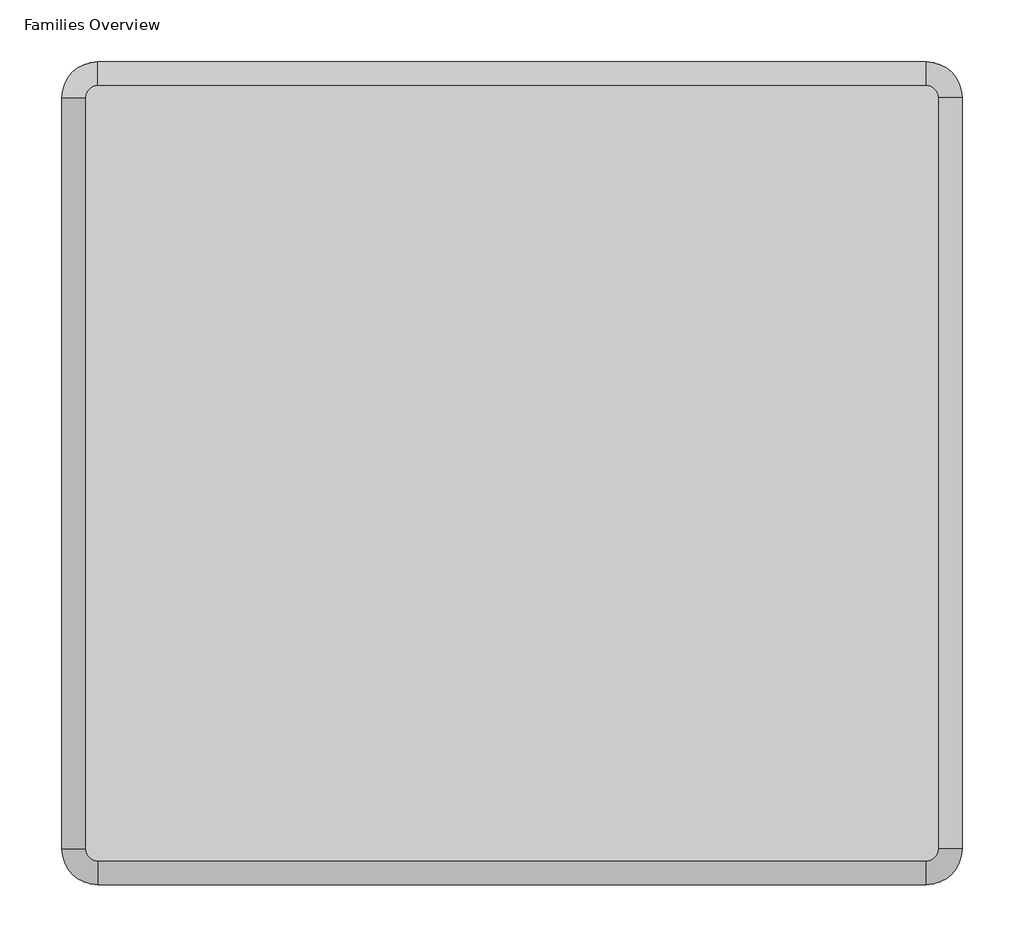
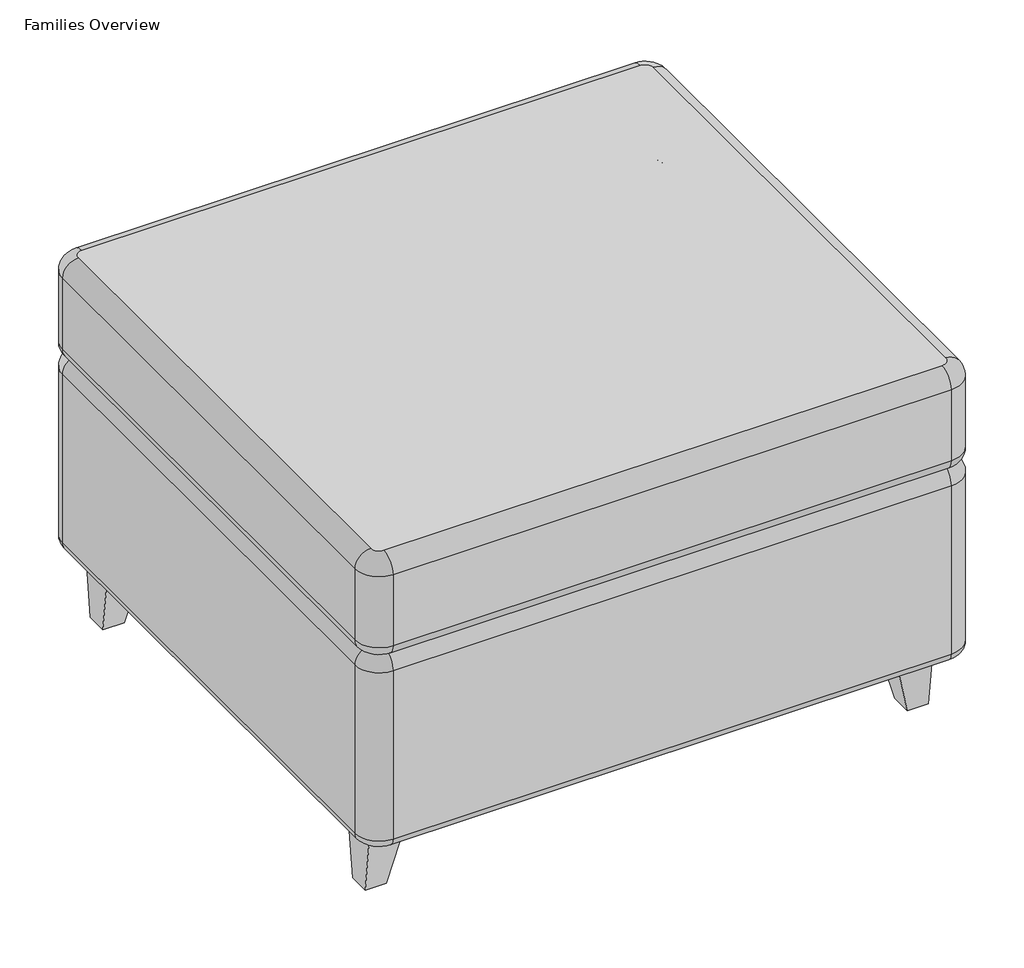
# One storey, incomplete: 1 furniture element.
"""IFC4 building model written with IfcOpenShell, lengths in millimetres."""

from ifc_helpers import new_model, si_unit, origin, place, context, project, spatial, transform, mapped, element, save
from components import ottoman_d983d748

model = new_model("IFC4")

# Units and contexts
model_context = context("Model", 3, world=origin())
ifc_project = project(units=[si_unit("LENGTHUNIT", "METRE", prefix="MILLI")], contexts=[model_context])

# Site, building, storey
site = spatial("IfcSite", under=ifc_project)
building = spatial("IfcBuilding", under=site)
storey = spatial("IfcBuildingStorey", under=building, Name="Families Overview", Elevation=0.0)

# Furniture
placement = place(None, origin())
ottoman_shape = ottoman_d983d748(model_context)
element("IfcFurniture", 1, ObjectType="Coalesse_AM_Seating_Ottoman_Thoughtful : Ottoman", at=placement, inside=storey, context=model_context, shape_type="MappedRepresentation", body=[
    mapped(ottoman_shape, transform((-12806.091849, 3108.9271755, 0.0), x_axis=(1.0, 0.0, 0.0), y_axis=(0.0, 1.0, 0.0), z_axis=(0.0, 0.0, 1.0))),
])

save(model, "model.ifc")
